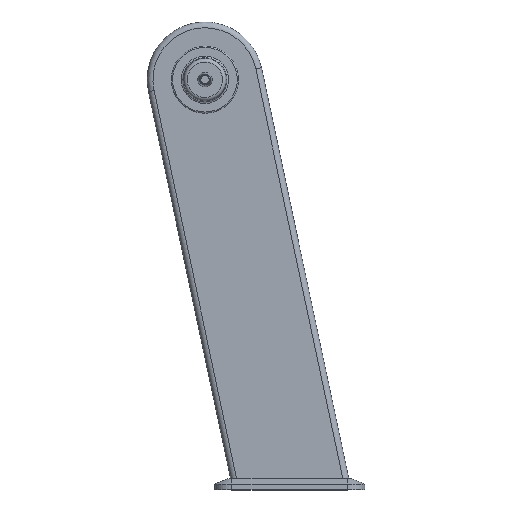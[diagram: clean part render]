
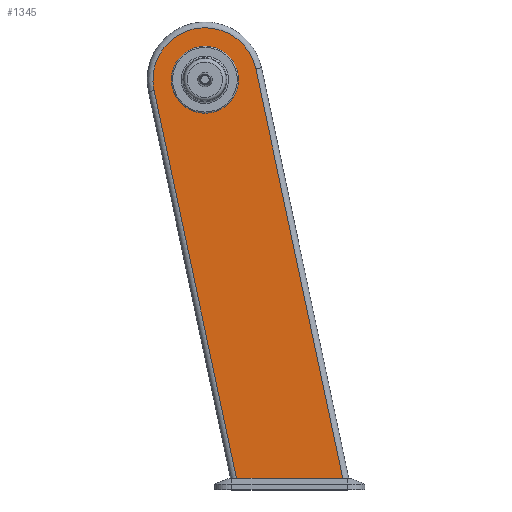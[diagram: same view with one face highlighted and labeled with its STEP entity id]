
A CAD part, top view. The second image highlights one B-rep face of the part: STEP entity #1345.
In plain terms, the highlighted planar face has unit normal (0, 0, 1).
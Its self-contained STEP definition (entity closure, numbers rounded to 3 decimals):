
#71 = CIRCLE ( 'NONE', #1005, 90. ) ;
#110 = CARTESIAN_POINT ( 'NONE',  ( 58., 0., 31.25 ) ) ;
#161 = EDGE_CURVE ( 'NONE', #209, #962, #1271, .T. ) ;
#164 = VERTEX_POINT ( 'NONE', #1139 ) ;
#195 = ORIENTED_EDGE ( 'NONE', *, *, #1615, .T. ) ;
#196 = ORIENTED_EDGE ( 'NONE', *, *, #1629, .T. ) ;
#209 = VERTEX_POINT ( 'NONE', #994 ) ;
#223 = VERTEX_POINT ( 'NONE', #110 ) ;
#258 = VECTOR ( 'NONE', #585, 1000. ) ;
#449 = EDGE_LOOP ( 'NONE', ( #1406 ) ) ;
#516 = DIRECTION ( 'NONE',  ( 0.208, -0.978, 0. ) ) ;
#572 = ORIENTED_EDGE ( 'NONE', *, *, #1618, .T. ) ;
#585 = DIRECTION ( 'NONE',  ( -0.208, 0.978, 0. ) ) ;
#587 = CARTESIAN_POINT ( 'NONE',  ( 58.463, -707.921, 31.25 ) ) ;
#589 = DIRECTION ( 'NONE',  ( 1., 0., 0. ) ) ;
#592 = DIRECTION ( 'NONE',  ( 0., 0., 1. ) ) ;
#593 = CARTESIAN_POINT ( 'NONE',  ( 0., 0., 31.25 ) ) ;
#598 = CARTESIAN_POINT ( 'NONE',  ( 88.033, 18.712, 31.25 ) ) ;
#683 = FACE_BOUND ( 'NONE', #449, .T. ) ;
#809 = VECTOR ( 'NONE', #1050, 1000. ) ;
#834 = DIRECTION ( 'NONE',  ( 1., 0., 0. ) ) ;
#835 = DIRECTION ( 'NONE',  ( 0., 0., 1. ) ) ;
#841 = CARTESIAN_POINT ( 'NONE',  ( 0., 0., 31.25 ) ) ;
#962 = VERTEX_POINT ( 'NONE', #1421 ) ;
#986 = ORIENTED_EDGE ( 'NONE', *, *, #161, .T. ) ;
#994 = CARTESIAN_POINT ( 'NONE',  ( 54.653, -690., 31.25 ) ) ;
#1005 = AXIS2_PLACEMENT_3D ( 'NONE', #593, #592, #589 ) ;
#1034 = VERTEX_POINT ( 'NONE', #1333 ) ;
#1042 = DIRECTION ( 'NONE',  ( 1., 0., 0. ) ) ;
#1045 = PLANE ( 'NONE',  #1173 ) ;
#1050 = DIRECTION ( 'NONE',  ( 1., 0., 0. ) ) ;
#1052 = CARTESIAN_POINT ( 'NONE',  ( 0., 0., 31.25 ) ) ;
#1062 = DIRECTION ( 'NONE',  ( 0., 0., 1. ) ) ;
#1090 = AXIS2_PLACEMENT_3D ( 'NONE', #841, #835, #834 ) ;
#1139 = CARTESIAN_POINT ( 'NONE',  ( -88.033, -18.712, 31.25 ) ) ;
#1142 = FACE_OUTER_BOUND ( 'NONE', #1660, .T. ) ;
#1155 = CARTESIAN_POINT ( 'NONE',  ( 0., -690., 31.25 ) ) ;
#1173 = AXIS2_PLACEMENT_3D ( 'NONE', #1052, #1062, #1042 ) ;
#1177 = VECTOR ( 'NONE', #516, 1000. ) ;
#1226 = LINE ( 'NONE', #598, #258 ) ;
#1271 = LINE ( 'NONE', #1155, #809 ) ;
#1333 = CARTESIAN_POINT ( 'NONE',  ( 88.033, 18.712, 31.25 ) ) ;
#1344 = LINE ( 'NONE', #587, #1177 ) ;
#1345 = ADVANCED_FACE ( 'NONE', ( #1142, #683 ), #1045, .T. ) ;
#1406 = ORIENTED_EDGE ( 'NONE', *, *, #1527, .F. ) ;
#1421 = CARTESIAN_POINT ( 'NONE',  ( 238.675, -690., 31.25 ) ) ;
#1527 = EDGE_CURVE ( 'NONE', #223, #223, #1532, .T. ) ;
#1532 = CIRCLE ( 'NONE', #1090, 58. ) ;
#1615 = EDGE_CURVE ( 'NONE', #1034, #164, #71, .T. ) ;
#1618 = EDGE_CURVE ( 'NONE', #962, #1034, #1226, .T. ) ;
#1629 = EDGE_CURVE ( 'NONE', #164, #209, #1344, .T. ) ;
#1660 = EDGE_LOOP ( 'NONE', ( #196, #986, #572, #195 ) ) ;
